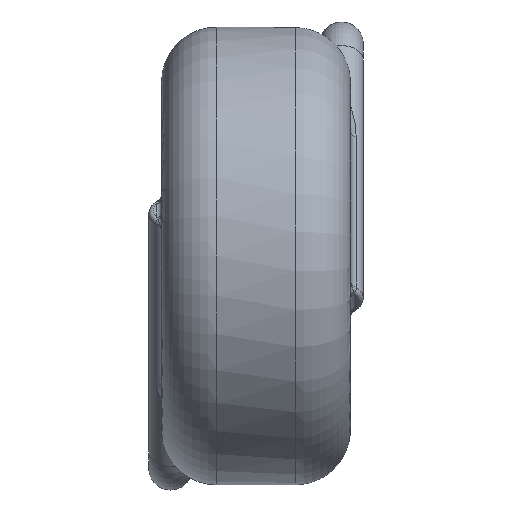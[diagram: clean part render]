
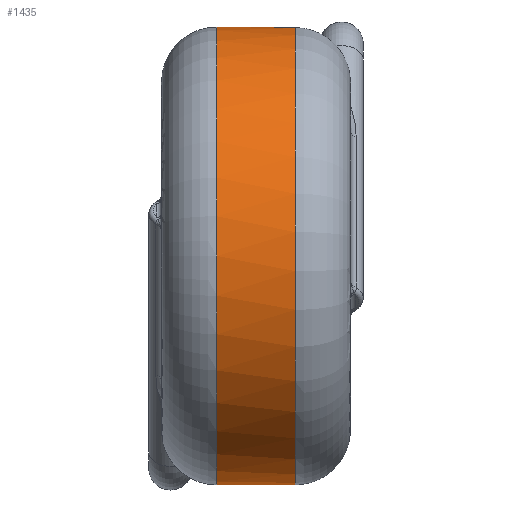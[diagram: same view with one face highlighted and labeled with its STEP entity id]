
A CAD part, left-side view. The second image highlights one B-rep face of the part: STEP entity #1435.
In plain terms, the highlighted cylindrical face has radius 10.3 mm (diameter 20.6 mm), a full revolution.
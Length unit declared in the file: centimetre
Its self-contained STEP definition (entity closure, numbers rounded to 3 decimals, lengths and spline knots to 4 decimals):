
#980=CARTESIAN_POINT('',(1.03,0.52,0.));
#981=VERTEX_POINT('',#980);
#982=CARTESIAN_POINT('',(0.0,0.52,0.0));
#983=DIRECTION('',(0.0,1.0,0.0));
#984=DIRECTION('',(-1.0,0.0,0.0));
#985=AXIS2_PLACEMENT_3D('',#982,#983,#984);
#986=CIRCLE('',#985,1.03);
#987=EDGE_CURVE('',#981,#981,#986,.T.);
#1326=CARTESIAN_POINT('',(1.03,0.169,0.));
#1327=VERTEX_POINT('',#1326);
#1328=CARTESIAN_POINT('',(0.0,0.169,0.0));
#1329=DIRECTION('',(0.0,-1.0,0.0));
#1330=DIRECTION('',(-1.0,0.0,0.0));
#1331=AXIS2_PLACEMENT_3D('',#1328,#1329,#1330);
#1332=CIRCLE('',#1331,1.03);
#1333=EDGE_CURVE('',#1327,#1327,#1332,.T.);
#1424=CARTESIAN_POINT('',(0.0,0.3445,0.0));
#1425=DIRECTION('',(0.0,1.0,0.0));
#1426=DIRECTION('',(-1.0,0.0,0.0));
#1427=AXIS2_PLACEMENT_3D('',#1424,#1425,#1426);
#1428=CYLINDRICAL_SURFACE('',#1427,1.03);
#1429=ORIENTED_EDGE('',*,*,#987,.F.);
#1430=EDGE_LOOP('',(#1429));
#1431=FACE_OUTER_BOUND('',#1430,.T.);
#1432=ORIENTED_EDGE('',*,*,#1333,.F.);
#1433=EDGE_LOOP('',(#1432));
#1434=FACE_BOUND('',#1433,.T.);
#1435=ADVANCED_FACE('',(#1431,#1434),#1428,.T.);
